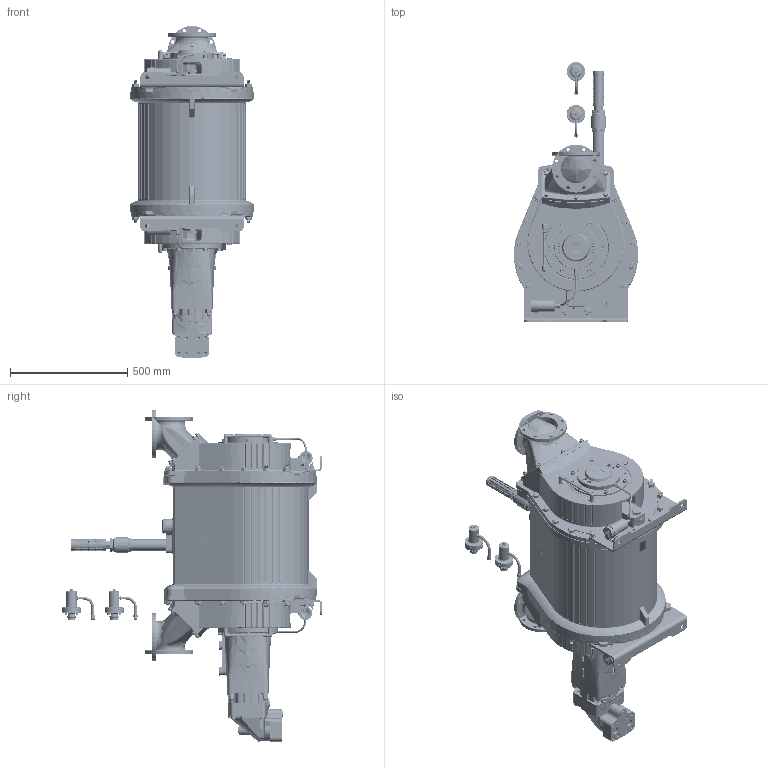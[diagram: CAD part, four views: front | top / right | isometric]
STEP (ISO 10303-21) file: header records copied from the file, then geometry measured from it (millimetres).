
FILE_DESCRIPTION(/* description */ (''),/* implementation_level */ '2;1');
FILE_NAME(/* name */ '1700169.stp',/* time_stamp */ '2026-04-24T09:48:54+02:00',/* author */ ('JJ'),/* organization */ (''),/* preprocessor_version */ 'ST-DEVELOPER v20',/* originating_system */ 'Autodesk Inventor 2025',/* authorisation */ '');
FILE_SCHEMA (('AUTOMOTIVE_DESIGN { 1 0 10303 214 3 1 1 }'));
Products named in the file (69): 1700169; 1659021; 1659049; 910100170; 910200008; 1634823; 1634808; 922000270; 910100021; 910100161; 944600276; 1634824; 1634809; 922000269; 1659046; 1659095; 915000050; 925000587; 925000590; 944600356; 944600355; 1659069; 1659017; 915000217; 910300487; 910100191; 944600240; 915000232; 915000225; 915000225-part1; 915000225-part2; 915000217_1; 1634773; 915000215; 1659080_Simplify_body; 1636087; 1636088; 922000307; 1634666; 1634667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
Assembly tree (165 placements, depth 4):
  1700169
    1659017  x4
    1659069  x4
    1659021  x2
    910100021  x16
    910100161  x16
    910100170  x12
    910200008  x12
    1634823  x2
      1634808
      922000270
    1634826  x2
      1634811
      922000266
    1659049  x2
    944600276  x4
    1659046  x2
    1634824  x2
      1634809
      922000269
    915000050  x2
    1659095
    925000587
    925000590
    944600356
    944600355
    910300487  x2
    910100191  x2
    944600240  x2
    915000232  x2
    915000225  x2
      915000225-part1
      915000225-part2
    1634773  x2
    915000215  x2
    915000217
    915000217_1
    1659080_Simplify_body
    1636087
      1636088
      922000307
    1634666  x2
      1634667
      1634668
      1634130
      1634131
      1634670
      1634134
      910200105
      910100125
      910300428
      921000047
      922100045
      922100339
      1634669
      925000651
      910300012
    925000862  x2
    927000134-TM2500  x2
    1659106
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Bounding box: 528.82 x 1107.24 x 1415 mm (x, y, z)
Volume: 180403592 mm3; surface area: 6920346.6 mm2
Topology: 192 solids, 210 shells, 11586 faces, 29975 edges, 19321 vertices
Faces by surface type: plane 4323, bspline 3158, cylinder 2570, cone 939, torus 410, sphere 186
Full cylindrical faces by diameter (mm): 1.5 x16, 3.2 x4, 3.3 x4, 3.5 x4, 4 x4, 4.134 x4, 4.917 x2, 4.92 x10, 5 x2, 5.3 x2, 6 x46, 6.1 x2, 6.4 x2, 6.5 x8, 8 x40, 8.376 x14, 8.4 x2, 8.5 x3, 8.57 x2, 9.2 x2, 9.7 x2, 9.8 x4, 10 x189, 10.106 x9, 10.5 x12, 11 x66, 11.18 x2, 11.3 x4, 11.445 x8, 11.835 x8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
Entity records: 502239 total; most frequent: CARTESIAN_POINT 336376, ORIENTED_EDGE 36266, DIRECTION 27783, EDGE_CURVE 18133, VERTEX_POINT 11675, AXIS2_PLACEMENT_3D 10112, EDGE_LOOP 7998, LINE 7559
